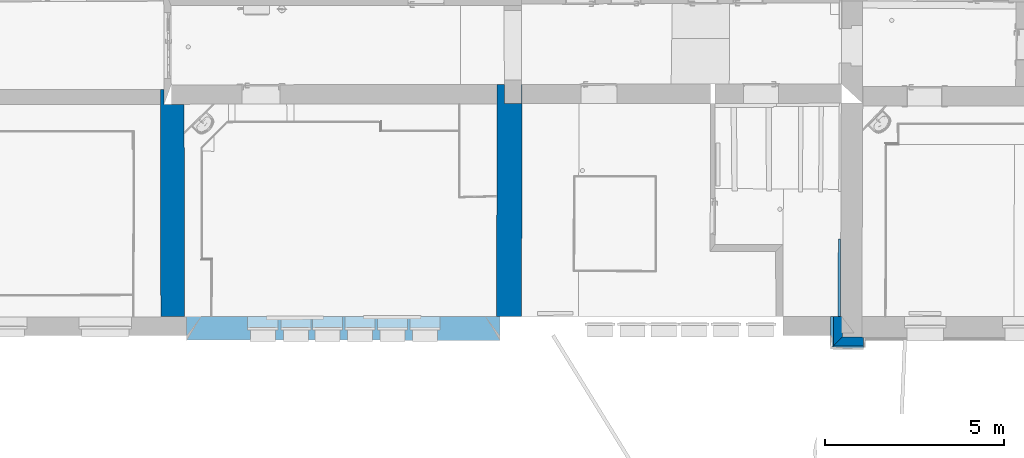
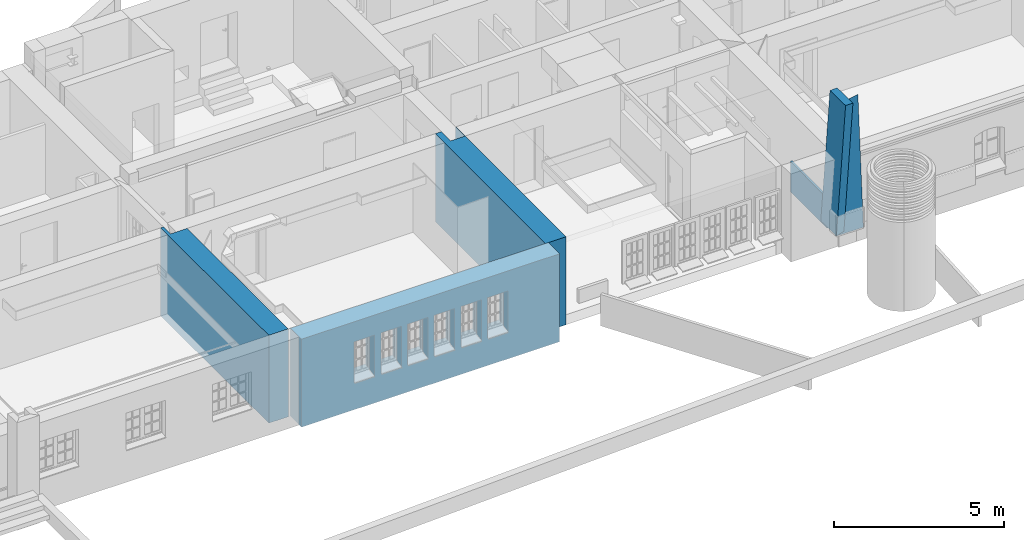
# One storey, part 85 of 196: 5 walls, 6 openings, plus 1 element that does not belong to this part.
"""IFC2X3 building model written with IfcOpenShell, lengths in metres."""

from ifc_helpers import new_model, entity, si_unit, converted_unit, derived_unit, money_unit, direction, frame, origin_with_axes, origin_2d_with_axis, place, context, subcontext, project, spatial, polyline, rectangle, outline, extrude, boolean, faceted_brep, material, type_object, element, save


model = new_model("IFC2X3")

# Units and contexts
model_context = context("Model", 3, precision=1e-05, world=origin_with_axes(), true_north=direction((0.0, 1.0)))
body_context = subcontext(model_context, "Body", "Model", "MODEL_VIEW")
ifc_project = project(units=[si_unit("LENGTHUNIT", "METRE"), si_unit("AREAUNIT", "SQUARE_METRE"), si_unit("VOLUMEUNIT", "CUBIC_METRE"), converted_unit("PLANEANGLEUNIT", "DEGREE", entity("IfcPlaneAngleMeasure", 0.0174532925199), si_unit("PLANEANGLEUNIT", "RADIAN"), dimensions=[0, 0, 0, 0, 0, 0, 0]), money_unit("EUR"), converted_unit("TIMEUNIT", "Year", entity("IfcTimeMeasure", 31556926.0), si_unit("TIMEUNIT", "SECOND"), dimensions=[0, 0, 1, 0, 0, 0, 0]), si_unit("MASSUNIT", "GRAM", prefix="KILO"), si_unit("THERMODYNAMICTEMPERATUREUNIT", "DEGREE_CELSIUS"), si_unit("LUMINOUSINTENSITYUNIT", "LUMEN"), si_unit("ENERGYUNIT", "JOULE", prefix="MEGA"), derived_unit("THERMALCONDUCTANCEUNIT", [(si_unit("POWERUNIT", "WATT"), 1), (si_unit("LENGTHUNIT", "METRE"), -1), (si_unit("THERMODYNAMICTEMPERATUREUNIT", "KELVIN"), -1)]), derived_unit("SPECIFICHEATCAPACITYUNIT", [(si_unit("ENERGYUNIT", "JOULE"), 1), (si_unit("MASSUNIT", "GRAM", prefix="KILO"), -1), (si_unit("THERMODYNAMICTEMPERATUREUNIT", "KELVIN"), -1)]), derived_unit("MASSDENSITYUNIT", [(si_unit("MASSUNIT", "GRAM", prefix="KILO"), 1), (si_unit("VOLUMEUNIT", "CUBIC_METRE"), -1)])], contexts=[model_context])

# Site, building, storey
site_placement = place(None, origin_with_axes())
site = spatial("IfcSite", under=ifc_project, at=site_placement, Name="Gelände", CompositionType="ELEMENT")
building_placement = place(site_placement, origin_with_axes())
building = spatial("IfcBuilding", under=site, at=building_placement, Name="Gebäude", CompositionType="ELEMENT")
storey_placement = place(building_placement, frame((0.0, 0.0, -3.0), z_axis=(0.0, 0.0, 1.0), x_axis=(1.0, 0.0, 0.0)))
storey = spatial("IfcBuildingStorey", under=building, at=storey_placement, Name="KELLERGESCHOSS", CompositionType="ELEMENT", Elevation=-3.0)

# Walls
ifc_material_1 = material(Name="05_ALLGEMEIN - TRAGENDE BAUTEILE")
wall_type_1 = type_object("IfcWallType", Name="05_ALLGEMEIN - TRAGENDE BAUTEILE 250", PredefinedType="ELEMENTEDWALL")
wall_1_placement = place(storey_placement, frame((21.6655184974, 9.94422982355, 0.337155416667), z_axis=(0.0, 0.0, 1.0), x_axis=(0.00991415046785, -0.999950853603, 0.0)))
element("IfcWall", 1, at=wall_1_placement, inside=storey, type_object=wall_type_1, material=ifc_material_1, Name="Wand-041", ObjectType="ELEMENTEDWALL", context=body_context, shape_type="CSG", body=[
    boolean("DIFFERENCE", extrude(outline(polyline([(-0.250585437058, 0.0), (0.0, 0.0), (-0.312437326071, 4.56271886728), (-0.56302276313, 4.56271886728), (-0.250585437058, 0.0)])), frame((-0.527173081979, 0.0, 0.0), z_axis=(-1.0, 0.0, 0.0), x_axis=(0.0, -1.0, 0.0)), (0.0, 0.0, -1.0), 0.902507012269), faceted_brep([(0.00345400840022, 0.372593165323, 1.78175562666), (0.00232297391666, 0.250585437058, 0.0), (-0.527173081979, 0.250585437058, 0.0), (-0.527173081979, 0.56302276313, 4.56271886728), (0.37533393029, 0.56302276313, 4.56271886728), (0.37533393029, 0.250585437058, 0.0), (0.13014896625, 0.250585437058, 0.0), (-0.52619672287, 0.412726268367, 2.36784458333), (-0.527153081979, 0.309561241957, 0.861260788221), (-0.389415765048, 0.412726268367, 2.36784458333), (0.00340786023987, 0.367615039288, 1.78087716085), (0.00340786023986, 0.367615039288, 2.45284458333), (0.00304804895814, 0.328801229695, 2.45284458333), (0.0015570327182, 0.16796130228, 2.45284458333), (0.0, 0.0, 0.0), (-0.527173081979, 0.0, 0.0), (-0.527173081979, 0.312437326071, 4.56271886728), (0.0, 0.329875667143, 4.56271886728), (0.0494704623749, 0.312437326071, 4.56271886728), (0.37533393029, 0.312437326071, 4.56271886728), (0.0, 0.312437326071, 4.56271886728), (0.37533393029, 0.0, 0.0), (0.129970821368, 0.242519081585, 0.0), (-0.527153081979, 0.309561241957, 2.36784458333), (0.0584088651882, 0.313251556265, 4.4594769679), (0.0584088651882, 0.313251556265, 2.45284458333), (0.0583707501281, 0.309299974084, 2.45284458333), (0.0, 0.16796130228, 2.45284458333), (0.0, 0.329875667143, 2.45284458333), (0.0583707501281, 0.309299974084, 4.45880007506), (0.0517152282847, 0.311646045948, 4.55116330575)], [[[0, 1, 2, 3, 4, 5, 6], [7, 8, 9]], [[1, 0, 10, 11, 12, 13, 14]], [[1, 14, 15, 2]], [[3, 2, 15, 16]], [[17, 18, 19, 4, 3, 16, 20]], [[21, 5, 4, 19]], [[22, 6, 5, 21]], [[0, 6, 22, 10]], [[8, 7, 23]], [[9, 8, 23]], [[7, 9, 23]], [[22, 21, 24, 25, 11, 10]], [[26, 12, 11, 25]], [[27, 13, 12, 28]], [[27, 20, 16, 15, 14, 13]], [[18, 17, 28, 12, 26, 29, 30]], [[30, 21, 19, 18]], [[17, 20, 27, 28]], [[21, 30, 29, 24]], [[26, 25, 24, 29]]])),
])
wall_2_placement = place(storey_placement, frame((22.5780395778, 9.55785640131, 0.337155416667), z_axis=(0.0, 0.0, 1.0), x_axis=(-0.999925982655, 0.0121667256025, 0.0)))
element("IfcWall", 2, at=wall_2_placement, inside=storey, type_object=wall_type_1, material=ifc_material_1, Name="Wand-042", ObjectType="ELEMENTEDWALL", context=body_context, shape_type="CSG", body=[
    boolean("DIFFERENCE", extrude(outline(polyline([(0.0, 0.0), (0.250658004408, 0.0), (0.581917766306, 4.56271886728), (0.331259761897, 4.56271886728), (0.0, 0.0)])), frame((0.0, 0.0, 0.0), z_axis=(-1.0, 0.0, 0.0), x_axis=(0.0, -1.0, 0.0)), (0.0, 0.0, -1.0), 0.908867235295), faceted_brep([(0.908867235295, 0.0, 0.0), (0.602689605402, -0.323764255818, 4.4594769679), (0.0, -0.331259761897, 4.56271886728), (0.908867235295, -0.331259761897, 4.56271886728), (0.671824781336, -0.250658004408, 0.0), (0.503418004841, -0.428737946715, 2.45284458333), (0.602689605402, -0.323764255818, 2.45284458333), (0.0, -0.331259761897, 1.1101956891), (0.045897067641, -0.330688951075, 2.45284458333), (0.045897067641, -0.330688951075, 1.10233343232), (0.0, -0.581917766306, 4.56271886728), (0.908867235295, -0.581917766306, 4.56271886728), (0.908867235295, -0.250658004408, 0.0), (0.0466759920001, -0.428737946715, 2.45284458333)], [[[0, 1, 2, 3]], [[4, 5, 6, 1, 0]], [[7, 2, 1, 6, 8, 9]], [[10, 11, 3, 2]], [[12, 0, 3, 11]], [[5, 4, 12, 11, 10, 7, 9, 13]], [[5, 13, 8, 6]], [[4, 0, 12]], [[2, 7, 10]], [[13, 9, 8]]])),
])

# Wall, openings
wall_type_2 = type_object("IfcWallType", Name="05_ALLGEMEIN - TRAGENDE BAUTEILE 660", PredefinedType="ELEMENTEDWALL")
wall_3_placement = place(storey_placement, frame((3.68030708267, 9.80941916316, -0.36), z_axis=(0.0, 0.0, 1.0), x_axis=(0.999999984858, -0.000174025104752, 0.0)))
wall_3 = element("IfcWall", 3, at=wall_3_placement, inside=storey, type_object=wall_type_2, material=ifc_material_1, Name="Wand-032", ObjectType="ELEMENTEDWALL", context=body_context, shape_type="CSG", body=[
    boolean("DIFFERENCE", extrude(outline(polyline([(0.0, 0.0), (8.74672447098, 0.0), (8.74672447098, 0.66), (0.0, 0.66), (0.0, 0.0)])), origin_with_axes(), (0.0, 0.0, 1.0), 3.15), faceted_brep([(8.36400803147, 0.66, 3.15), (8.36400803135, 0.66, 3.065), (8.74672447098, 0.66, 3.065), (8.74672447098, 0.66, 0.0), (0.0, 0.66, 0.0), (0.0, 0.66, 3.15), (0.396377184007, 0.651638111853, 3.15), (0.396377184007, 0.651638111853, 0.0), (8.3467354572, 0.659981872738, 0.0), (8.3467354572, 0.659981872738, 3.065), (8.74672447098, 0.0, 3.065), (8.74672447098, 0.0, 0.0), (0.0, 0.0, 0.0), (0.0, 0.0, 3.15)], [[[0, 1, 2, 3, 4, 5]], [[1, 0, 6, 7, 8, 9]], [[10, 2, 1, 9]], [[10, 11, 3, 2]], [[7, 12, 4, 3, 11, 8]], [[12, 13, 5, 4]], [[6, 0, 5, 13]], [[6, 13, 12, 7]], [[11, 10, 9, 8]]])),
])
opening_1_placement = place(wall_3_placement, frame((6.65087656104, 0.0, 0.977921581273), z_axis=(0.0, 0.0, 1.0), x_axis=(1.0, 0.0, 0.0)))
element("IfcOpeningElement", 4, at=opening_1_placement, cuts=wall_3, Name="Fenster-015", context=body_context, shape_type="SweptSolid", body=[
    extrude(rectangle(XDim=0.840207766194, YDim=1.52470991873, at=origin_2d_with_axis()), frame((0.0, 0.28, 0.762354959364), z_axis=(0.0, -1.0, 0.0), x_axis=(1.0, 0.0, 0.0)), (0.0, 0.0, -1.0), 1.04),
    extrude(rectangle(XDim=0.700207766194, YDim=1.45470991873, at=origin_2d_with_axis()), frame((0.0, 0.28, 0.727354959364), z_axis=(0.0, 1.0, 0.0), x_axis=(1.0, 0.0, 0.0)), (0.0, 0.0, -1.0), 0.94),
])
opening_2_placement = place(wall_3_placement, frame((5.75227144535, 0.0, 0.977921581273), z_axis=(0.0, 0.0, 1.0), x_axis=(1.0, 0.0, 0.0)))
element("IfcOpeningElement", 5, at=opening_2_placement, cuts=wall_3, Name="Fenster-015", context=body_context, shape_type="SweptSolid", body=[
    extrude(rectangle(XDim=0.840207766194, YDim=1.52470991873, at=origin_2d_with_axis()), frame((0.0, 0.28, 0.762354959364), z_axis=(0.0, -1.0, 0.0), x_axis=(1.0, 0.0, 0.0)), (0.0, 0.0, -1.0), 1.04),
    extrude(rectangle(XDim=0.700207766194, YDim=1.45470991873, at=origin_2d_with_axis()), frame((0.0, 0.28, 0.727354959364), z_axis=(0.0, 1.0, 0.0), x_axis=(1.0, 0.0, 0.0)), (0.0, 0.0, -1.0), 0.94),
])
opening_3_placement = place(wall_3_placement, frame((2.12414616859, 0.0, 0.977921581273), z_axis=(0.0, 0.0, 1.0), x_axis=(1.0, 0.0, 0.0)))
element("IfcOpeningElement", 6, at=opening_3_placement, cuts=wall_3, Name="Fenster-015", context=body_context, shape_type="SweptSolid", body=[
    extrude(rectangle(XDim=0.840207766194, YDim=1.52470991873, at=origin_2d_with_axis()), frame((0.0, 0.28, 0.762354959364), z_axis=(0.0, -1.0, 0.0), x_axis=(1.0, 0.0, 0.0)), (0.0, 0.0, -1.0), 1.04),
    extrude(rectangle(XDim=0.700207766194, YDim=1.45470991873, at=origin_2d_with_axis()), frame((0.0, 0.28, 0.727354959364), z_axis=(0.0, 1.0, 0.0), x_axis=(1.0, 0.0, 0.0)), (0.0, 0.0, -1.0), 0.94),
])
opening_4_placement = place(wall_3_placement, frame((3.04781651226, 0.0, 0.977921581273), z_axis=(0.0, 0.0, 1.0), x_axis=(1.0, 0.0, 0.0)))
element("IfcOpeningElement", 7, at=opening_4_placement, cuts=wall_3, Name="Fenster-015", context=body_context, shape_type="SweptSolid", body=[
    extrude(rectangle(XDim=0.840207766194, YDim=1.52470991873, at=origin_2d_with_axis()), frame((0.0, 0.28, 0.762354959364), z_axis=(0.0, -1.0, 0.0), x_axis=(1.0, 0.0, 0.0)), (0.0, 0.0, -1.0), 1.04),
    extrude(rectangle(XDim=0.700207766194, YDim=1.45470991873, at=origin_2d_with_axis()), frame((0.0, 0.28, 0.727354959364), z_axis=(0.0, 1.0, 0.0), x_axis=(1.0, 0.0, 0.0)), (0.0, 0.0, -1.0), 0.94),
])
opening_5_placement = place(wall_3_placement, frame((3.9368208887, 0.0, 0.977921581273), z_axis=(0.0, 0.0, 1.0), x_axis=(1.0, 0.0, 0.0)))
element("IfcOpeningElement", 8, at=opening_5_placement, cuts=wall_3, Name="Fenster-015", context=body_context, shape_type="SweptSolid", body=[
    extrude(rectangle(XDim=0.840207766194, YDim=1.52470991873, at=origin_2d_with_axis()), frame((0.0, 0.28, 0.762354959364), z_axis=(0.0, -1.0, 0.0), x_axis=(1.0, 0.0, 0.0)), (0.0, 0.0, -1.0), 1.04),
    extrude(rectangle(XDim=0.700207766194, YDim=1.45470991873, at=origin_2d_with_axis()), frame((0.0, 0.28, 0.727354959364), z_axis=(0.0, 1.0, 0.0), x_axis=(1.0, 0.0, 0.0)), (0.0, 0.0, -1.0), 0.94),
])
opening_6_placement = place(wall_3_placement, frame((4.8431156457, 0.0, 0.977921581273), z_axis=(0.0, 0.0, 1.0), x_axis=(1.0, 0.0, 0.0)))
element("IfcOpeningElement", 9, at=opening_6_placement, cuts=wall_3, Name="Fenster-015", context=body_context, shape_type="SweptSolid", body=[
    extrude(rectangle(XDim=0.840207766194, YDim=1.52470991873, at=origin_2d_with_axis()), frame((0.0, 0.28, 0.762354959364), z_axis=(0.0, -1.0, 0.0), x_axis=(1.0, 0.0, 0.0)), (0.0, 0.0, -1.0), 1.04),
    extrude(rectangle(XDim=0.700207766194, YDim=1.45470991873, at=origin_2d_with_axis()), frame((0.0, 0.28, 0.727354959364), z_axis=(0.0, 1.0, 0.0), x_axis=(1.0, 0.0, 0.0)), (0.0, 0.0, -1.0), 0.94),
])

# Walls
wall_4_placement = place(storey_placement, frame((3.61535409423, 9.94058394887, -0.36), z_axis=(0.0, 0.0, 1.0), x_axis=(-0.000868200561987, 0.999999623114, 0.0)))
element("IfcWall", 10, at=wall_4_placement, inside=storey, type_object=wall_type_2, material=ifc_material_1, Name="Wand-035", ObjectType="ELEMENTEDWALL", context=body_context, shape_type="CSG", body=[
    boolean("DIFFERENCE", boolean("DIFFERENCE", extrude(outline(polyline([(0.0, 0.0), (6.86967027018, 0.0), (6.86967027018, 0.66), (0.0, 0.66), (0.0, 0.0)])), origin_with_axes(), (0.0, 0.0, 1.0), 3.15), faceted_brep([(6.45925117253, 0.559570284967, 3.15), (6.45940092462, 0.359569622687, 3.15), (6.45967015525, 0.0, 3.15), (6.86967027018, 0.0, 3.15), (6.86967027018, 0.66, 3.15), (6.86965116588, 0.66, 3.15), (6.86965403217, 0.560977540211, 3.15), (6.45925117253, 0.559570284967, 0.0), (6.45940092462, 0.359569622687, 0.0), (6.45967015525, 0.0, 0.0), (6.86967027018, 0.0, 0.0), (6.86967027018, 0.66, 0.0), (6.86965116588, 0.66, 0.0), (6.86965403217, 0.560977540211, 0.0)], [[[0, 1, 2, 3, 4, 5, 6]], [[1, 0, 7, 8]], [[9, 2, 1, 8]], [[2, 9, 10, 3]], [[3, 10, 11, 4]], [[12, 5, 4, 11]], [[6, 5, 12, 13]], [[0, 6, 13, 7]], [[13, 12, 11, 10, 9, 8, 7]]])), faceted_brep([(0.525000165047, 0.0, 0.0), (0.525000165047, 0.0, 3.15), (0.0, 0.0, 3.15), (0.0, 0.0, 0.0), (0.525523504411, 0.66, 3.15), (0.525523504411, 0.66, 0.0), (0.0, 0.66, 3.15), (0.0, 0.66, 0.0)], [[[0, 1, 2, 3]], [[4, 1, 0, 5]], [[1, 4, 6, 2]], [[6, 7, 3, 2]], [[5, 0, 3, 7]], [[4, 5, 7, 6]]])),
])
wall_type_3 = type_object("IfcWallType", Name="05_ALLGEMEIN - TRAGENDE BAUTEILE 700", PredefinedType="ELEMENTEDWALL")
wall_5_placement = place(storey_placement, frame((13.0490806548, 16.9555154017, -0.36), z_axis=(0.0, 0.0, 1.0), x_axis=(-0.00255632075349, -0.999996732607, 0.0)))
element("IfcWall", 11, at=wall_5_placement, inside=storey, type_object=wall_type_3, material=ifc_material_1, Name="Wand-036", ObjectType="ELEMENTEDWALL", context=body_context, shape_type="CSG", body=[
    boolean("DIFFERENCE", boolean("DIFFERENCE", extrude(outline(polyline([(0.0, -0.7), (7.01911292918, -0.7), (7.01911292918, 0.0), (0.0, 0.0), (0.0, -0.7)])), origin_with_axes(), (0.0, 0.0, 1.0), 3.15), faceted_brep([(6.48686970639, 0.0, 0.0), (6.48686970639, 0.0, 3.15), (7.01911292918, 0.0, 3.15), (7.01911292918, 0.0, 0.0), (6.48911021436, -0.7, 3.15), (6.48911021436, -0.7, 0.0), (7.01911292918, -0.7, 3.15), (7.01911292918, -0.7, 0.0)], [[[0, 1, 2, 3]], [[4, 1, 0, 5]], [[1, 4, 6, 2]], [[6, 7, 3, 2]], [[5, 0, 3, 7]], [[4, 5, 7, 6]]])), faceted_brep([(0.540077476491, -0.0174379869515, 3.15), (8.04447544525e-05, -0.0192760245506, 3.15), (0.0, 0.0, 3.15), (0.0, -0.7, 3.15), (0.00292131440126, -0.7, 3.15), (0.00208361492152, -0.49927198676, 3.15), (0.542080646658, -0.497433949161, 3.15), (0.540077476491, -0.0174379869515, 0.0), (8.04447544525e-05, -0.0192760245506, 0.0), (0.0, 0.0, 0.0), (0.0, -0.7, 0.0), (0.00292131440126, -0.7, 0.0), (0.00208361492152, -0.49927198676, 0.0), (0.542080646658, -0.497433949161, 0.0)], [[[0, 1, 2, 3, 4, 5, 6]], [[1, 0, 7, 8]], [[9, 2, 1, 8]], [[2, 9, 10, 3]], [[11, 4, 3, 10]], [[5, 4, 11, 12]], [[6, 5, 12, 13]], [[0, 6, 13, 7]], [[12, 11, 10, 9, 8, 7, 13]]])),
])
ifc_material_2 = material(Name="01_ALLGEMEIN - BAUTEIL")
wall_type_4 = type_object("IfcWallType", Name="01_ALLGEMEIN - BAUTEIL 80", PredefinedType="ELEMENTEDWALL")
wall_6_placement = place(storey_placement, frame((21.8813307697, 12.6423625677, 0.0), z_axis=(0.0, 0.0, 1.0), x_axis=(-0.00681172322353, -0.999976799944, 0.0)))
element("IfcWall", 12, at=wall_6_placement, inside=storey, type_object=wall_type_4, material=ifc_material_2, Name="Wand-038", ObjectType="ELEMENTEDWALL", context=body_context, shape_type="CSG", body=[
    boolean("DIFFERENCE", extrude(outline(polyline([(0.0, 0.0), (2.69806811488, 0.0), (2.69806811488, 0.08), (0.0, 0.08), (0.0, 0.0)])), origin_with_axes(), (0.0, 0.0, 1.0), 1.0808445), faceted_brep([(0.0, 0.0664598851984, 0.0), (0.0, 0.0664598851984, 1.0808445), (0.0, 0.08, 1.0808445), (0.0, 0.08, 0.0), (2.16751599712, 0.0720712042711, 1.0808445), (2.16751599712, 0.0720712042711, 0.0), (2.16805338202, 0.0, 1.0808445), (2.69806811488, 0.0, 1.0808445), (2.69806811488, 0.08, 1.0808445), (2.69806811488, 0.08, 0.0), (2.69806811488, 0.0, 0.0), (2.16805338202, 0.0, 0.0)], [[[0, 1, 2, 3]], [[4, 1, 0, 5]], [[4, 6, 7, 8, 2, 1]], [[8, 9, 3, 2]], [[5, 0, 3, 9, 10, 11]], [[6, 4, 5, 11]], [[6, 11, 10, 7]], [[7, 10, 9, 8]]])),
])

save(model, "model.ifc")
